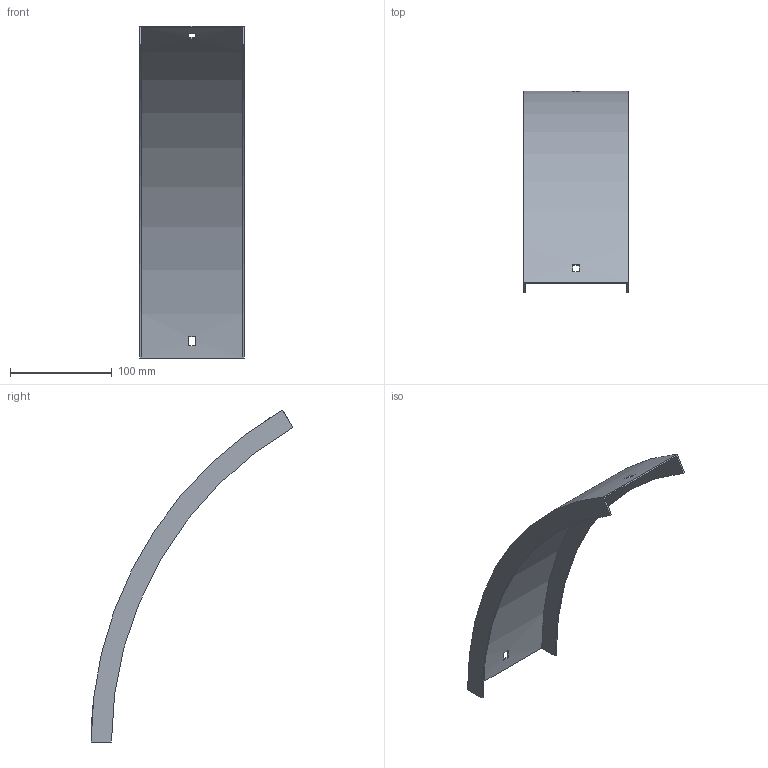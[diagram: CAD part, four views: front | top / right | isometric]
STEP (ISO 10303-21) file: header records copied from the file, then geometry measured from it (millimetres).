
FILE_DESCRIPTION (( 'STEP AP214' ), '1' );
FILE_NAME ('B2_41N3C100.step', '2025-02-21T10:40:59', ( '' ), ( '' ), 'SwSTEP 2.0', 'SolidWorks 2023', '' );
FILE_SCHEMA (( 'AUTOMOTIVE_DESIGN' ));
Length unit declared in the file: millimetre
Products named in the file (1): B2_41N3C100
Bounding box: 103 x 198.25 x 326.06 mm (x, y, z)
Volume: 81874.9 mm3; surface area: 110801.9 mm2
Topology: 1 solids, 1 shells, 18 faces, 48 edges, 32 vertices
Faces by surface type: plane 14, cylinder 4
Entity records: 599 total; most frequent: DIRECTION 102, CARTESIAN_POINT 99, ORIENTED_EDGE 96, EDGE_CURVE 48, AXIS2_PLACEMENT_3D 35, LINE 32, VECTOR 32, VERTEX_POINT 32
